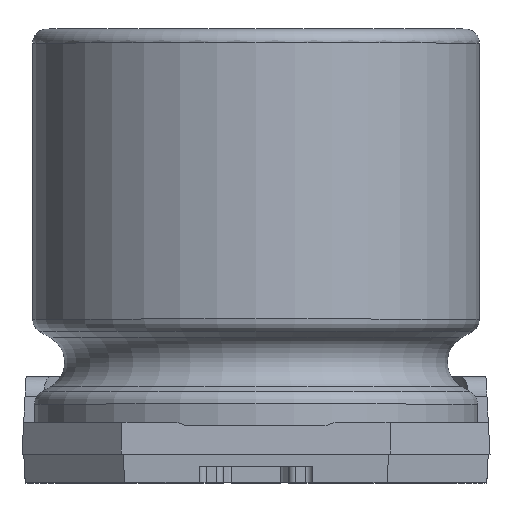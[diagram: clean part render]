
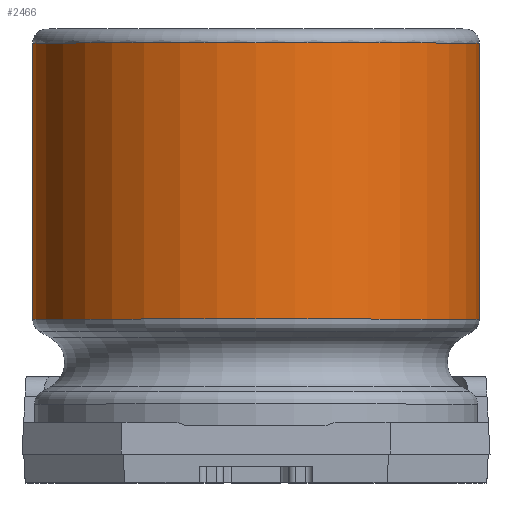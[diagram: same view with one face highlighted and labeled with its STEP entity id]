
A CAD part, top view. The second image highlights one B-rep face of the part: STEP entity #2466.
In plain terms, the highlighted cylindrical face has radius 3.15 mm (diameter 6.3 mm), a full revolution.
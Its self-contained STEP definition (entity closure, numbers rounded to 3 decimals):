
#138 = CARTESIAN_POINT ( 'NONE',  ( 0., 5.8, 0. ) ) ;
#323 = DIRECTION ( 'NONE',  ( 0., -1., 0. ) ) ;
#344 = DIRECTION ( 'NONE',  ( 0., 0., -1. ) ) ;
#391 = AXIS2_PLACEMENT_3D ( 'NONE', #138, #2517, #4021 ) ;
#446 = CARTESIAN_POINT ( 'NONE',  ( 0., 0., 0. ) ) ;
#509 = ORIENTED_EDGE ( 'NONE', *, *, #1548, .T. ) ;
#1271 = FACE_OUTER_BOUND ( 'NONE', #4719, .T. ) ;
#1487 = FACE_OUTER_BOUND ( 'NONE', #2998, .T. ) ;
#1501 = AXIS2_PLACEMENT_3D ( 'NONE', #446, #323, #3165 ) ;
#1548 = EDGE_CURVE ( 'NONE', #4476, #4476, #4050, .T. ) ;
#2240 = CARTESIAN_POINT ( 'NONE',  ( 0., 1.906, -3.15 ) ) ;
#2444 = ORIENTED_EDGE ( 'NONE', *, *, #3548, .F. ) ;
#2466 = ADVANCED_FACE ( 'NONE', ( #1487, #1271 ), #3749, .T. ) ;
#2517 = DIRECTION ( 'NONE',  ( 0., -1., 0. ) ) ;
#2950 = CARTESIAN_POINT ( 'NONE',  ( 0., 5.8, -3.15 ) ) ;
#2978 = CIRCLE ( 'NONE', #3371, 3.15 ) ;
#2998 = EDGE_LOOP ( 'NONE', ( #509 ) ) ;
#3165 = DIRECTION ( 'NONE',  ( 0., 0., -1. ) ) ;
#3371 = AXIS2_PLACEMENT_3D ( 'NONE', #4847, #4803, #344 ) ;
#3548 = EDGE_CURVE ( 'NONE', #3721, #3721, #2978, .T. ) ;
#3721 = VERTEX_POINT ( 'NONE', #2240 ) ;
#3749 = CYLINDRICAL_SURFACE ( 'NONE', #1501, 3.15 ) ;
#4021 = DIRECTION ( 'NONE',  ( 0., 0., -1. ) ) ;
#4050 = CIRCLE ( 'NONE', #391, 3.15 ) ;
#4476 = VERTEX_POINT ( 'NONE', #2950 ) ;
#4719 = EDGE_LOOP ( 'NONE', ( #2444 ) ) ;
#4803 = DIRECTION ( 'NONE',  ( 0., -1., 0. ) ) ;
#4847 = CARTESIAN_POINT ( 'NONE',  ( 0., 1.906, 0. ) ) ;
